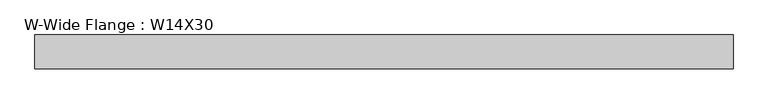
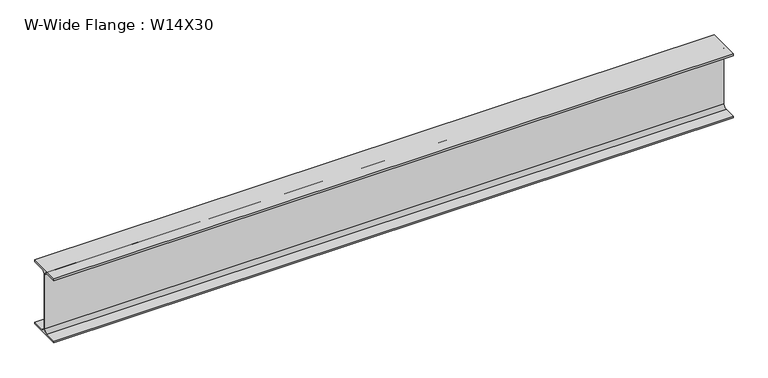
"""IFC4 building model written with IfcOpenShell, lengths in millimetres: beam geometry, W-Wide Flange : W14X30."""

from ifc_helpers import new_model, si_unit, point, frame, frame_2d, origin, place, context, project, spatial, polyline, circle_curve, trimmed, segment, composite_curve, outline, extrude, source, transform, mapped, element, save


def w_wide_flange_w14x30_3b0c1dc8(model_context):
    return source(origin(), model_context, "Body", "SweptSolid", [
        extrude(outline(composite_curve([segment(polyline([(85.4769531, -165.9433594), (85.4769531, -175.7660156), (-85.4769531, -175.7660156), (-85.4769531, -165.9433594), (-22.1753906, -165.9433594)]), True, "CONTINUOUS"), segment(trimmed(circle_curve(frame_2d((-22.1753906, -147.1910156)), 18.7523438), [point((-22.1753906, -165.9433594))], [point((-3.4230469, -147.1910156))], True, "CARTESIAN"), True, "CONTINUOUS"), segment(polyline([(-3.4230469, -147.1910156), (-3.4230469, 147.1910156)]), True, "CONTINUOUS"), segment(trimmed(circle_curve(frame_2d((-22.1753906, 147.1910156)), 18.7523438), [point((-3.4230469, 147.1910156))], [point((-22.1753906, 165.9433594))], True, "CARTESIAN"), True, "CONTINUOUS"), segment(polyline([(-22.1753906, 165.9433594), (-85.4769531, 165.9433594), (-85.4769531, 175.7660156), (85.4769531, 175.7660156), (85.4769531, 165.9433594), (22.1753906, 165.9433594)]), True, "CONTINUOUS"), segment(trimmed(circle_curve(frame_2d((22.1753906, 147.1910156)), 18.7523438), [point((22.1753906, 165.9433594))], [point((3.4230469, 147.1910156))], True, "CARTESIAN"), True, "CONTINUOUS"), segment(polyline([(3.4230469, 147.1910156), (3.4230469, -147.1910156)]), True, "CONTINUOUS"), segment(trimmed(circle_curve(frame_2d((22.1753906, -147.1910156)), 18.7523438), [point((3.4230469, -147.1910156))], [point((22.1753906, -165.9433594))], True, "CARTESIAN"), True, "CONTINUOUS"), segment(polyline([(22.1753906, -165.9433594), (85.4769531, -165.9433594)]), True, "CONTINUOUS")], self_intersect=False)), frame((-1657.8358079, 0.0, 0.0), z_axis=(1.0, 0.0, 0.0), x_axis=(0.0, 1.0, 0.0)), (0.0, 0.0, 1.0), 3521.1253951),
    ])


if __name__ == "__main__":
    model = new_model("IFC4")
    model_context = context("Model", 3, world=origin())
    ifc_project = project(units=[si_unit("LENGTHUNIT", "METRE", prefix="MILLI")], contexts=[model_context])
    site = spatial("IfcSite", under=ifc_project)
    building = spatial("IfcBuilding", under=site)
    placement = place(None, origin())
    w_wide_flange_w14x30_shape = w_wide_flange_w14x30_3b0c1dc8(model_context)
    element("IfcBeam", 1, ObjectType="W-Wide Flange : W14X30", at=placement, inside=building, context=model_context, shape_type="MappedRepresentation", body=[
        mapped(w_wide_flange_w14x30_shape, transform((0.0, 0.0, 0.0), x_axis=(1.0, 0.0, 0.0), y_axis=(0.0, 1.0, 0.0), z_axis=(0.0, 0.0, 1.0))),
    ])
    save(model, "model.ifc")
